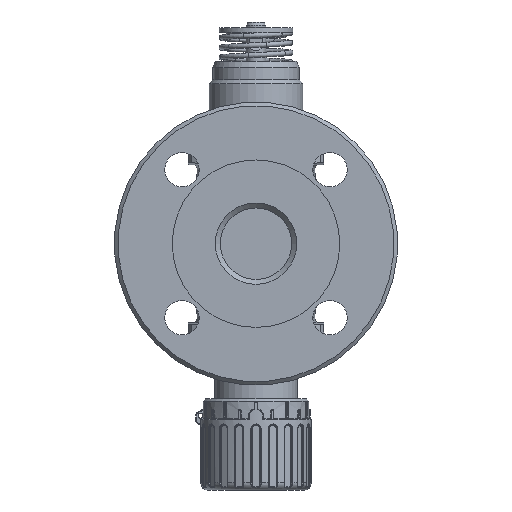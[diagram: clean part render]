
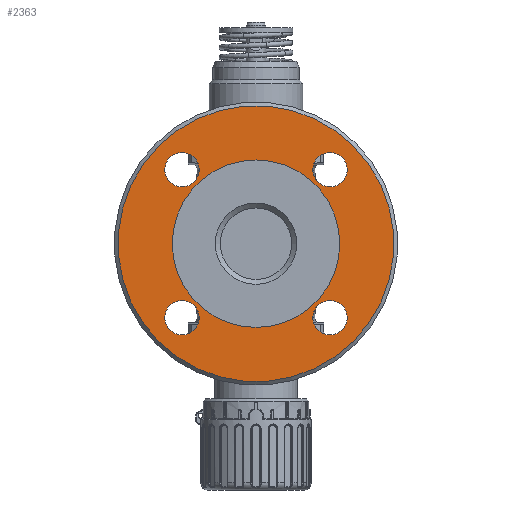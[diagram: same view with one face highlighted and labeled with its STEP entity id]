
A CAD part, left-side view. The second image highlights one B-rep face of the part: STEP entity #2363.
In plain terms, the highlighted planar face has unit normal (-1, 0, 0).
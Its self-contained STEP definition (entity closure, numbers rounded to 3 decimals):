
#1697=PLANE('',#9599);
#2363=ADVANCED_FACE('',(#3059,#3060,#3061,#3062,#3063,#3064),#1697,.T.);
#3059=FACE_BOUND('',#3327,.T.);
#3060=FACE_BOUND('',#3328,.T.);
#3061=FACE_BOUND('',#3329,.T.);
#3062=FACE_BOUND('',#3330,.T.);
#3063=FACE_BOUND('',#3331,.T.);
#3064=FACE_BOUND('',#3332,.T.);
#3327=EDGE_LOOP('',(#4124));
#3328=EDGE_LOOP('',(#4125));
#3329=EDGE_LOOP('',(#4126));
#3330=EDGE_LOOP('',(#4127));
#3331=EDGE_LOOP('',(#4128));
#3332=EDGE_LOOP('',(#4129));
#4124=ORIENTED_EDGE('',*,*,#7680,.T.);
#4125=ORIENTED_EDGE('',*,*,#7649,.T.);
#4126=ORIENTED_EDGE('',*,*,#7681,.T.);
#4127=ORIENTED_EDGE('',*,*,#7682,.T.);
#4128=ORIENTED_EDGE('',*,*,#7683,.T.);
#4129=ORIENTED_EDGE('',*,*,#7684,.T.);
#6774=VERTEX_POINT('',#13171);
#6794=VERTEX_POINT('',#13292);
#6795=VERTEX_POINT('',#13294);
#6796=VERTEX_POINT('',#13296);
#6797=VERTEX_POINT('',#13298);
#6798=VERTEX_POINT('',#13300);
#7649=EDGE_CURVE('',#6774,#6774,#9001,.T.);
#7680=EDGE_CURVE('',#6794,#6794,#9022,.T.);
#7681=EDGE_CURVE('',#6795,#6795,#9023,.T.);
#7682=EDGE_CURVE('',#6796,#6796,#9024,.T.);
#7683=EDGE_CURVE('',#6797,#6797,#9025,.T.);
#7684=EDGE_CURVE('',#6798,#6798,#9026,.T.);
#9001=CIRCLE('',#9553,34.);
#9022=CIRCLE('',#9594,56.);
#9023=CIRCLE('',#9595,7.);
#9024=CIRCLE('',#9596,7.);
#9025=CIRCLE('',#9597,7.);
#9026=CIRCLE('',#9598,7.);
#9553=AXIS2_PLACEMENT_3D('',#13170,#10639,#10640);
#9594=AXIS2_PLACEMENT_3D('',#13291,#10725,#10726);
#9595=AXIS2_PLACEMENT_3D('',#13293,#10727,#10728);
#9596=AXIS2_PLACEMENT_3D('',#13295,#10729,#10730);
#9597=AXIS2_PLACEMENT_3D('',#13297,#10731,#10732);
#9598=AXIS2_PLACEMENT_3D('',#13299,#10733,#10734);
#9599=AXIS2_PLACEMENT_3D('',#13301,#10735,#10736);
#10639=DIRECTION('',(1.,0.,0.));
#10640=DIRECTION('',(0.,0.,1.));
#10725=DIRECTION('',(-1.,0.,0.));
#10726=DIRECTION('',(0.,-0.707,-0.707));
#10727=DIRECTION('',(1.,0.,0.));
#10728=DIRECTION('',(0.,0.707,-0.707));
#10729=DIRECTION('',(1.,0.,0.));
#10730=DIRECTION('',(0.,-0.707,-0.707));
#10731=DIRECTION('',(1.,0.,0.));
#10732=DIRECTION('',(0.,-0.707,0.707));
#10733=DIRECTION('',(1.,0.,0.));
#10734=DIRECTION('',(0.,0.707,0.707));
#10735=DIRECTION('',(-1.,0.,0.));
#10736=DIRECTION('',(0.,-0.707,-0.707));
#13170=CARTESIAN_POINT('',(-78.,0.,0.));
#13171=CARTESIAN_POINT('',(-78.,0.,34.));
#13291=CARTESIAN_POINT('',(-78.,0.,0.));
#13292=CARTESIAN_POINT('',(-78.,-39.598,-39.598));
#13293=CARTESIAN_POINT('',(-78.,-30.052,-30.052));
#13294=CARTESIAN_POINT('',(-78.,-25.102,-35.002));
#13295=CARTESIAN_POINT('',(-78.,-30.052,30.052));
#13296=CARTESIAN_POINT('',(-78.,-35.002,25.102));
#13297=CARTESIAN_POINT('',(-78.,30.052,30.052));
#13298=CARTESIAN_POINT('',(-78.,25.102,35.002));
#13299=CARTESIAN_POINT('',(-78.,30.052,-30.052));
#13300=CARTESIAN_POINT('',(-78.,35.002,-25.102));
#13301=CARTESIAN_POINT('',(-78.,0.,0.));
